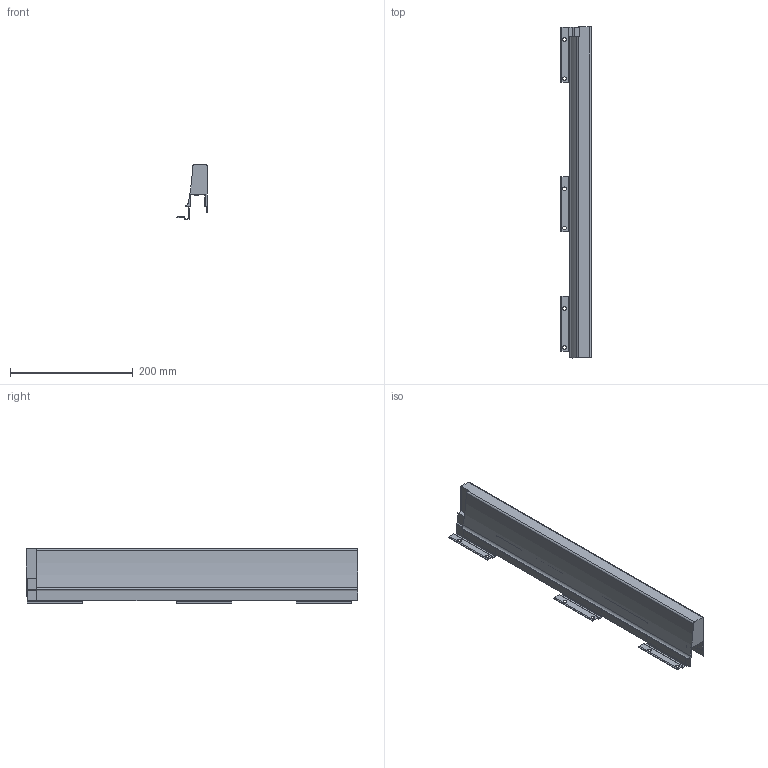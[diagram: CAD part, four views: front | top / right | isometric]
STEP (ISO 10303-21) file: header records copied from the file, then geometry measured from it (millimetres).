
FILE_DESCRIPTION (( 'STEP AP214' ), '1' );
FILE_NAME ('_XP Agantis Dekorseite H95 NL550 RE.step', '2010-07-08T06:05:28', ( 'grass' ), ( '' ), 'SwSTEP 2.0', 'SolidWorks 2010', '' );
FILE_SCHEMA (( 'AUTOMOTIVE_DESIGN' ));
Length unit declared in the file: millimetre
Products named in the file (1): _XP Agantis Dekorseite H95 NL550 RE
Bounding box: 50.01 x 541.5 x 89.5 mm (x, y, z)
Volume: 764055.4 mm3; surface area: 178680.3 mm2
Topology: 1 solids, 1 shells, 130 faces, 382 edges, 249 vertices
Faces by surface type: plane 103, cylinder 27
Entity records: 4335 total; most frequent: ORIENTED_EDGE 764, CARTESIAN_POINT 762, DIRECTION 699, EDGE_CURVE 382, LINE 327, VECTOR 327, VERTEX_POINT 249, AXIS2_PLACEMENT_3D 186
